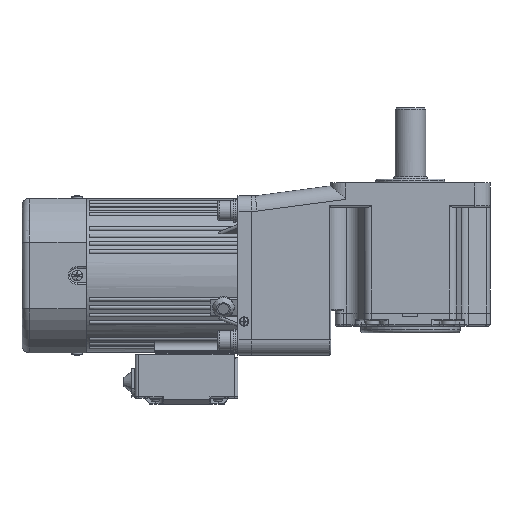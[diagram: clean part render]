
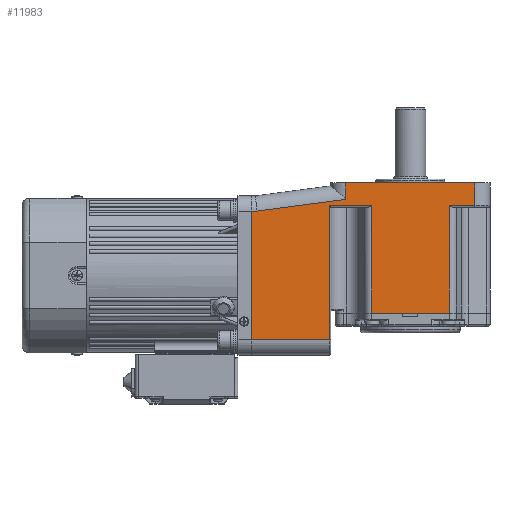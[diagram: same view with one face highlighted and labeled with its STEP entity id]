
A CAD part, front view. The second image highlights one B-rep face of the part: STEP entity #11983.
In plain terms, the highlighted planar face has unit normal (0, -1, 0).
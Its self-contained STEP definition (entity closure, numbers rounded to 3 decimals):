
#3129=PLANE('',#43433);
#4594=FACE_OUTER_BOUND('',#15791,.T.);
#6888=LINE('',#62197,#9523);
#6892=LINE('',#62235,#9527);
#6897=LINE('',#62282,#9532);
#6975=LINE('',#62966,#9610);
#6976=LINE('',#62971,#9611);
#6978=LINE('',#62980,#9613);
#6980=LINE('',#62986,#9615);
#6982=LINE('',#62989,#9617);
#6995=LINE('',#63030,#9630);
#7042=LINE('',#63405,#9677);
#7050=LINE('',#63420,#9685);
#7061=LINE('',#63455,#9696);
#7064=LINE('',#63463,#9699);
#9523=VECTOR('',#50057,1.);
#9527=VECTOR('',#50079,1.);
#9532=VECTOR('',#50100,1.);
#9610=VECTOR('',#50624,1.);
#9611=VECTOR('',#50629,1.);
#9613=VECTOR('',#50637,1.);
#9615=VECTOR('',#50643,1.);
#9617=VECTOR('',#50647,1.);
#9630=VECTOR('',#50686,1.);
#9677=VECTOR('',#50953,1.);
#9685=VECTOR('',#50973,1.);
#9696=VECTOR('',#51018,1.);
#9699=VECTOR('',#51027,1.);
#11983=ADVANCED_FACE('',(#4594),#3129,.T.);
#15791=EDGE_LOOP('',(#22233,#22234,#22235,#22236,#22237,#22238,#22239,#22240,
#22241,#22242,#22243,#22244,#22245));
#22233=ORIENTED_EDGE('',*,*,#35725,.T.);
#22234=ORIENTED_EDGE('',*,*,#35302,.T.);
#22235=ORIENTED_EDGE('',*,*,#35729,.T.);
#22236=ORIENTED_EDGE('',*,*,#35327,.T.);
#22237=ORIENTED_EDGE('',*,*,#35577,.T.);
#22238=ORIENTED_EDGE('',*,*,#35708,.F.);
#22239=ORIENTED_EDGE('',*,*,#35568,.T.);
#22240=ORIENTED_EDGE('',*,*,#35572,.T.);
#22241=ORIENTED_EDGE('',*,*,#35575,.T.);
#22242=ORIENTED_EDGE('',*,*,#35699,.F.);
#22243=ORIENTED_EDGE('',*,*,#35597,.T.);
#22244=ORIENTED_EDGE('',*,*,#35566,.T.);
#22245=ORIENTED_EDGE('',*,*,#35315,.T.);
#30701=VERTEX_POINT('',#62196);
#30702=VERTEX_POINT('',#62198);
#30713=VERTEX_POINT('',#62233);
#30715=VERTEX_POINT('',#62236);
#30721=VERTEX_POINT('',#62262);
#30724=VERTEX_POINT('',#62280);
#30890=VERTEX_POINT('',#62961);
#30892=VERTEX_POINT('',#62970);
#30893=VERTEX_POINT('',#62972);
#30896=VERTEX_POINT('',#62979);
#30897=VERTEX_POINT('',#62984);
#30899=VERTEX_POINT('',#62990);
#30914=VERTEX_POINT('',#63031);
#35302=EDGE_CURVE('',#30702,#30701,#6888,.T.);
#35315=EDGE_CURVE('',#30715,#30713,#6892,.T.);
#35327=EDGE_CURVE('',#30724,#30721,#6897,.T.);
#35566=EDGE_CURVE('',#30890,#30715,#6975,.T.);
#35568=EDGE_CURVE('',#30893,#30892,#6976,.T.);
#35572=EDGE_CURVE('',#30892,#30896,#6978,.T.);
#35575=EDGE_CURVE('',#30896,#30897,#6980,.T.);
#35577=EDGE_CURVE('',#30721,#30899,#6982,.T.);
#35597=EDGE_CURVE('',#30914,#30890,#6995,.T.);
#35699=EDGE_CURVE('',#30914,#30897,#7042,.T.);
#35708=EDGE_CURVE('',#30893,#30899,#7050,.T.);
#35725=EDGE_CURVE('',#30713,#30702,#7061,.T.);
#35729=EDGE_CURVE('',#30701,#30724,#7064,.T.);
#43433=AXIS2_PLACEMENT_3D('',#63509,#51086,#51087);
#50057=DIRECTION('',(1.,0.,0.));
#50079=DIRECTION('',(1.,0.,0.));
#50100=DIRECTION('',(1.,0.,0.));
#50624=DIRECTION('',(0.,0.,1.));
#50629=DIRECTION('',(0.,0.,-1.));
#50637=DIRECTION('',(-0.991,0.,-0.132));
#50643=DIRECTION('',(-1.,0.,0.));
#50647=DIRECTION('',(0.,0.,1.));
#50686=DIRECTION('',(1.,0.,0.));
#50953=DIRECTION('',(0.,0.,1.));
#50973=DIRECTION('',(1.,0.,0.));
#51018=DIRECTION('',(0.,0.,-1.));
#51027=DIRECTION('',(0.,0.,1.));
#51086=DIRECTION('',(0.,-1.,0.));
#51087=DIRECTION('',(0.,0.,-1.));
#62196=CARTESIAN_POINT('',(64.031,-172.671,-82.981));
#62197=CARTESIAN_POINT('',(-11.8,-172.671,-82.981));
#62198=CARTESIAN_POINT('',(13.369,-172.671,-82.981));
#62233=CARTESIAN_POINT('',(13.369,-172.671,-12.991));
#62235=CARTESIAN_POINT('',(-13.3,-172.671,-12.991));
#62236=CARTESIAN_POINT('',(-14.3,-172.671,-12.991));
#62262=CARTESIAN_POINT('',(80.7,-172.671,-12.991));
#62280=CARTESIAN_POINT('',(64.031,-172.671,-12.991));
#62282=CARTESIAN_POINT('',(-13.3,-172.671,-12.991));
#62961=CARTESIAN_POINT('',(-14.3,-172.671,-100.491));
#62966=CARTESIAN_POINT('',(-14.3,-172.671,-13.991));
#62970=CARTESIAN_POINT('',(-3.3,-172.671,-8.752));
#62971=CARTESIAN_POINT('',(-3.3,-172.671,-91.491));
#62972=CARTESIAN_POINT('',(-3.3,-172.671,2.009));
#62979=CARTESIAN_POINT('',(-61.64,-172.671,-16.491));
#62980=CARTESIAN_POINT('',(-60.985,-172.671,-16.404));
#62984=CARTESIAN_POINT('',(-65.3,-172.671,-16.491));
#62986=CARTESIAN_POINT('',(-65.3,-172.671,-16.491));
#62989=CARTESIAN_POINT('',(80.7,-172.671,-91.491));
#62990=CARTESIAN_POINT('',(80.7,-172.671,2.009));
#63030=CARTESIAN_POINT('',(-13.3,-172.671,-100.491));
#63031=CARTESIAN_POINT('',(-65.3,-172.671,-100.491));
#63405=CARTESIAN_POINT('',(-65.3,-172.671,-110.491));
#63420=CARTESIAN_POINT('',(-13.3,-172.671,2.009));
#63455=CARTESIAN_POINT('',(13.369,-172.671,-87.991));
#63463=CARTESIAN_POINT('',(64.031,-172.671,-13.991));
#63509=CARTESIAN_POINT('',(-13.3,-172.671,-91.491));
